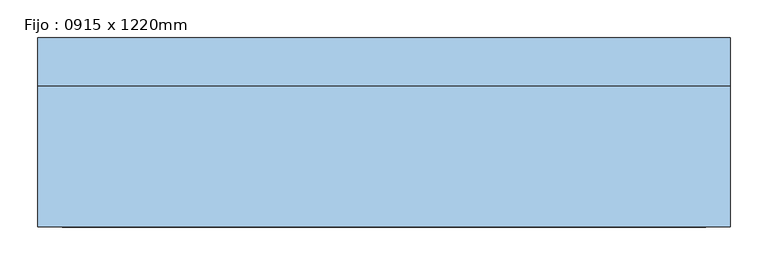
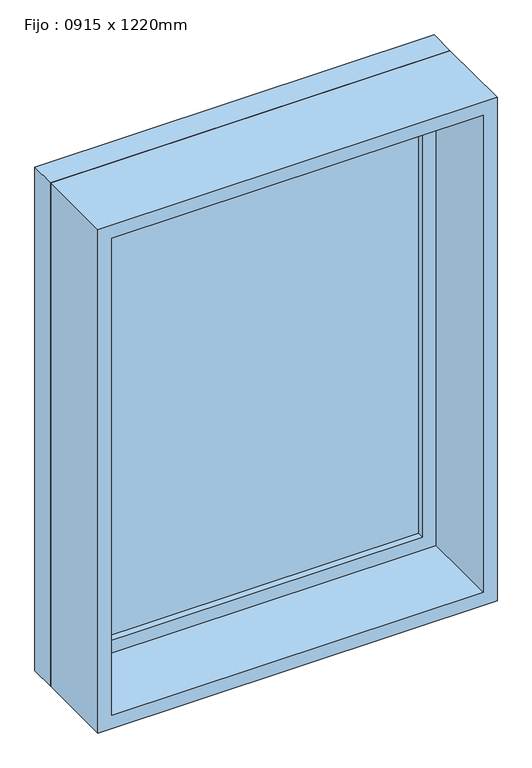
"""IFC4 building model written with IfcOpenShell, lengths in millimetres: window geometry, Fijo : 0915 x 1220mm."""

from ifc_helpers import new_model, si_unit, frame, origin, place, context, project, spatial, polyline, outline, extrude, source, transform, mapped, element, save


def fijo_0915_x_1220mm_3f3afe46(model_context):
    return source(origin(), model_context, "Body", "SweptSolid", [
        extrude(outline(polyline([(-394.5, 103.0), (394.5, 103.0), (394.5, 91.0), (-394.5, 91.0), (-394.5, 103.0)])), frame((0.0, 0.0, 978.0), z_axis=(0.0, 0.0, 1.0), x_axis=(1.0, 0.0, 0.0)), (0.0, 0.0, 1.0), 1094.0),
        extrude(outline(polyline([(2116.0, -438.5), (934.0, -438.5), (934.0, 438.5), (2116.0, 438.5), (2116.0, -438.5)]), holes=[polyline([(2072.0, -394.5), (2072.0, 394.5), (978.0, 394.5), (978.0, -394.5), (2072.0, -394.5)])]), frame((0.0, 75.0, 0.0), z_axis=(0.0, 1.0, 0.0), x_axis=(0.0, 0.0, 1.0)), (0.0, 0.0, 1.0), 44.0),
        extrude(outline(polyline([(2135.0, -457.5), (915.0, -457.5), (915.0, 457.5), (2135.0, 457.5), (2135.0, -457.5)]), holes=[polyline([(2116.0, -438.5), (2116.0, 438.5), (934.0, 438.5), (934.0, -438.5), (2116.0, -438.5)])]), frame((0.0, 75.0, 0.0), z_axis=(0.0, 1.0, 0.0), x_axis=(0.0, 0.0, 1.0)), (0.0, 0.0, 1.0), 63.0),
        extrude(outline(polyline([(2135.0, -457.5), (915.0, -457.5), (915.0, 457.5), (2135.0, 457.5), (2135.0, -457.5)]), holes=[polyline([(2103.0, -425.5), (2103.0, 425.5), (947.0, 425.5), (947.0, -425.5), (2103.0, -425.5)])]), frame((0.0, -112.0, 0.0), z_axis=(0.0, 1.0, 0.0), x_axis=(0.0, 0.0, 1.0)), (0.0, 0.0, 1.0), 187.0),
    ])


if __name__ == "__main__":
    model = new_model("IFC4")
    model_context = context("Model", 3, world=origin())
    ifc_project = project(units=[si_unit("LENGTHUNIT", "METRE", prefix="MILLI")], contexts=[model_context])
    site = spatial("IfcSite", under=ifc_project)
    building = spatial("IfcBuilding", under=site)
    placement = place(None, origin())
    fijo_0915_x_1220mm_shape = fijo_0915_x_1220mm_3f3afe46(model_context)
    element("IfcWindow", 1, ObjectType="Fijo : 0915 x 1220mm", at=placement, inside=building, context=model_context, shape_type="MappedRepresentation", body=[
        mapped(fijo_0915_x_1220mm_shape, transform((0.0, 0.0, 0.0), x_axis=(1.0, 0.0, 0.0), y_axis=(0.0, 1.0, 0.0), z_axis=(0.0, 0.0, 1.0))),
    ])
    save(model, "model.ifc")
